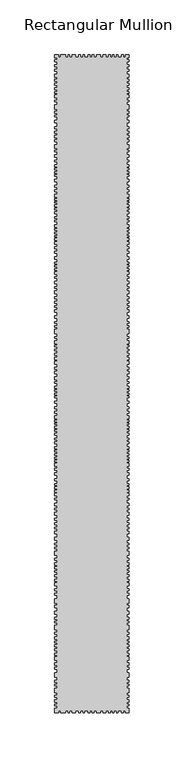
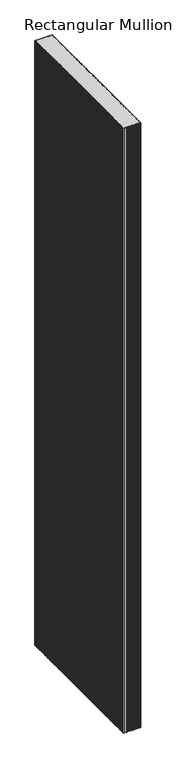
"""IFC4 building model written with IfcOpenShell, lengths in millimetres: member geometry, Rectangular Mullion : DucoSun Cubic Design louvre 600."""

from ifc_helpers import new_model, si_unit, frame, origin, place, context, project, spatial, polyline, outline, extrude, source, transform, mapped, element, save


def rectangular_mullion_db812b2c(model_context):
    return source(origin(), model_context, "Body", "SweptSolid", [
        extrude(outline(polyline([(-68.0, 597.3782451), (-68.0, 600.0), (-64.4544414, 600.0), (-64.4544414, 598.0), (-62.627942, 598.0), (-62.627942, 600.0), (-57.9842994, 600.0), (-57.9842994, 598.0), (-55.8172663, 598.0), (-55.8172663, 600.0), (-54.3003431, 600.0), (-54.3003431, 598.0), (-51.9475642, 598.0), (-51.9475642, 600.0), (-48.8827601, 600.0), (-48.8827601, 598.0), (-46.0965746, 598.0), (-46.0965746, 600.0), (-44.3939057, 600.0), (-44.3939057, 598.0), (-42.0101692, 598.0), (-42.0101692, 600.0), (-40.5242036, 600.0), (-40.5242036, 598.0), (-37.4884678, 598.0), (-37.4884678, 600.0), (-35.7094289, 600.0), (-35.7094289, 598.0), (-34.0, 598.0), (-34.0, 600.0), (-32.1513512, 600.0), (-32.1513512, 598.0), (-29.7871022, 598.0), (-29.7871022, 600.0), (-26.0183489, 600.0), (-26.0183489, 598.0), (-23.9584092, 598.0), (-23.9584092, 600.0), (-21.2664425, 600.0), (-21.2664425, 598.0), (-18.9958271, 598.0), (-18.9958271, 600.0), (-17.1231547, 600.0), (-17.1231547, 598.0), (-15.0632149, 598.0), (-15.0632149, 600.0), (-13.7289358, 600.0), (-13.7289358, 598.0), (-11.6924045, 598.0), (-11.6924045, 600.0), (-10.1006329, 600.0), (-10.1006329, 598.0), (-7.0341317, 598.0), (-7.0341317, 600.0), (-5.0678256, 600.0), (-5.0678256, 598.0), (-3.1249279, 598.0), (-3.1249279, 600.0), (0.0, 600.0), (0.0, 597.3782451), (-2.0, 597.3782451), (-2.0, 595.4241521), (0.0, 595.4241521), (0.0, 593.6532553), (-2.0, 593.6532553), (-2.0, 590.9460223), (0.0, 590.9460223), (0.0, 588.9105087), (-2.0, 588.9105087), (-2.0, 586.7121541), (0.0, 586.7121541), (0.0, 585.0023227), (-2.0, 585.0023227), (-2.0, 582.3561551), (0.0, 582.3561551), (0.0, 579.3843053), (-2.0, 579.3843053), (-2.0, 577.8917893), (0.0, 577.8917893), (0.0, 575.8425117), (-2.0, 575.8425117), (-2.0, 573.8680636), (0.0, 573.8680636), (0.0, 572.1582322), (-2.0, 572.1582322), (-2.0, 570.0820083), (0.0, 570.0820083), (0.0, 568.3111116), (-2.0, 568.3111116), (-2.0, 566.4995045), (0.0, 566.4995045), (0.0, 565.0713495), (-2.0, 565.0713495), (-2.0, 563.4577392), (0.0, 563.4577392), (0.0, 561.0328231), (-2.0, 561.0328231), (-2.0, 558.5725067), (0.0, 558.5725067), (0.0, 557.0325964), (-2.0, 557.0325964), (-2.0, 554.5014796), (0.0, 554.5014796), (0.0, 550.4127524), (-2.0, 550.4127524), (-2.0, 548.4126391), (0.0, 548.4126391), (0.0, 546.8373286), (-2.0, 546.8373286), (-2.0, 544.9965163), (0.0, 544.9965163), (0.0, 543.3504053), (-2.0, 543.3504053), (-2.0, 540.3767855), (0.0, 540.3767855), (0.0, 537.9545244), (-2.0, 537.9545244), (-2.0, 534.5552168), (0.0, 534.5552168), (0.0, 532.5197032), (-2.0, 532.5197032), (-2.0, 530.239928), (0.0, 530.239928), (0.0, 528.6929377), (-2.0, 528.6929377), (-2.0, 526.4335177), (0.0, 526.4335177), (0.0, 524.5608452), (-2.0, 524.5608452), (-2.0, 522.6271073), (0.0, 522.6271073), (0.0, 520.5508835), (-2.0, 520.5508835), (-2.0, 518.0064916), (0.0, 518.0064916), (0.0, 514.9328661), (-2.0, 514.9328661), (-2.0, 512.9177077), (0.0, 512.9177077), (0.0, 511.4114277), (-2.0, 511.4114277), (-2.0, 508.9688114), (0.0, 508.9688114), (0.0, 506.7118273), (-2.0, 506.7118273), (-2.0, 503.8852623), (0.0, 503.8852623), (0.0, 502.4316003), (-2.0, 502.4316003), (-2.0, 499.9011516), (0.0, 499.9011516), (0.0, 497.8552569), (-2.0, 497.8552569), (-2.0, 496.6169522), (0.0, 496.6169522), (0.0, 495.0825312), (-2.0, 495.0825312), (-2.0, 493.4673512), (0.0, 493.4673512), (0.0, 492.0675286), (-2.0, 492.0675286), (-2.0, 490.5869469), (0.0, 490.5869469), (0.0, 489.1602046), (-2.0, 489.1602046), (-2.0, 486.3310055), (0.0, 486.3310055), (0.0, 484.2608252), (-2.0, 484.2608252), (-2.0, 481.1919832), (0.0, 481.1919832), (0.0, 479.2537672), (-2.0, 479.2537672), (-2.0, 476.9360418), (0.0, 476.9360418), (0.0, 475.0004598), (-2.0, 475.0004598), (-2.0, 472.9007258), (0.0, 472.9007258), (0.0, 470.1010805), (-2.0, 470.1010805), (-2.0, 468.8089365), (0.0, 468.8089365), (0.0, 467.3014351), (-2.0, 467.3014351), (-2.0, 466.0362108), (0.0, 466.0362108), (0.0, 465.0401831), (-2.0, 465.0401831), (-2.0, 463.2096458), (0.0, 463.2096458), (0.0, 461.6483051), (-2.0, 461.6483051), (-2.0, 460.1408038), (0.0, 460.1408038), (0.0, 458.6063828), (-2.0, 458.6063828), (-2.0, 457.0719618), (0.0, 457.0719618), (0.0, 455.0799064), (-2.0, 455.0799064), (-2.0, 452.3762692), (0.0, 452.3762692), (0.0, 450.8903036), (-2.0, 450.8903036), (-2.0, 449.1257194), (0.0, 449.1257194), (0.0, 447.6087962), (-2.0, 447.6087962), (-2.0, 444.8535683), (0.0, 444.8535683), (0.0, 442.7484504), (-2.0, 442.7484504), (-2.0, 441.4172729), (0.0, 441.4172729), (0.0, 439.9622649), (-2.0, 439.9622649), (-2.0, 438.3524688), (0.0, 438.3524688), (0.0, 436.8355456), (-2.0, 436.8355456), (-2.0, 435.1947919), (0.0, 435.1947919), (0.0, 433.9255296), (-2.0, 433.9255296), (-2.0, 432.5014792), (0.0, 432.5014792), (0.0, 431.1083865), (-2.0, 431.1083865), (-2.0, 429.6843361), (0.0, 429.6843361), (0.0, 427.0529387), (-2.0, 427.0529387), (-2.0, 424.9787784), (0.0, 424.9787784), (0.0, 423.0284485), (-2.0, 423.0284485), (-2.0, 420.7995001), (0.0, 420.7995001), (0.0, 418.8182126), (-2.0, 418.8182126), (-2.0, 415.6914933), (0.0, 415.6914933), (0.0, 413.4935025), (-2.0, 413.4935025), (-2.0, 410.954978), (0.0, 410.954978), (0.0, 409.4070971), (-2.0, 409.4070971), (-2.0, 408.1378348), (0.0, 408.1378348), (0.0, 406.4970812), (-2.0, 406.4970812), (-2.0, 404.8253698), (0.0, 404.8253698), (0.0, 403.3394042), (-2.0, 403.3394042), (-2.0, 402.0391843), (0.0, 402.0391843), (0.0, 400.0578969), (-2.0, 400.0578969), (-2.0, 397.6741604), (0.0, 397.6741604), (0.0, 396.0953219), (-2.0, 396.0953219), (-2.0, 393.3091364), (0.0, 393.3091364), (0.0, 391.0182728), (-2.0, 391.0182728), (-2.0, 388.572621), (0.0, 388.572621), (0.0, 387.1485707), (-2.0, 387.1485707), (-2.0, 385.0124951), (0.0, 385.0124951), (0.0, 382.1643944), (-2.0, 382.1643944), (-2.0, 379.3782089), (0.0, 379.3782089), (0.0, 377.427879), (-2.0, 377.427879), (-2.0, 375.4156339), (0.0, 375.4156339), (0.0, 373.6510498), (-2.0, 373.6510498), (-2.0, 371.1744404), (0.0, 371.1744404), (0.0, 369.6884748), (-2.0, 369.6884748), (-2.0, 367.5523993), (0.0, 367.5523993), (0.0, 365.4163237), (-2.0, 365.4163237), (-2.0, 362.1967316), (0.0, 362.1967316), (0.0, 359.5343765), (-2.0, 359.5343765), (-2.0, 356.7791486), (0.0, 356.7791486), (0.0, 355.0764797), (-2.0, 355.0764797), (-2.0, 352.9404041), (0.0, 352.9404041), (0.0, 351.6092266), (-2.0, 351.6092266), (-2.0, 349.5660239), (0.0, 349.5660239), (0.0, 345.512038), (-2.0, 345.512038), (-2.0, 343.0030092), (0.0, 343.0030092), (0.0, 341.3312979), (-2.0, 341.3312979), (-2.0, 339.0404342), (0.0, 339.0404342), (0.0, 336.5638249), (-2.0, 336.5638249), (-2.0, 335.015944), (0.0, 335.015944), (0.0, 333.5609361), (-2.0, 333.5609361), (-2.0, 331.5796486), (0.0, 331.5796486), (0.0, 330.0627254), (-2.0, 330.0627254), (-2.0, 327.8337769), (0.0, 327.8337769), (0.0, 326.1620656), (-2.0, 326.1620656), (-2.0, 324.0259901), (0.0, 324.0259901), (0.0, 322.0756602), (-2.0, 322.0756602), (-2.0, 320.6516099), (0.0, 320.6516099), (0.0, 317.7415939), (-2.0, 317.7415939), (-2.0, 315.2030693), (0.0, 315.2030693), (0.0, 313.1908242), (-2.0, 313.1908242), (-2.0, 311.2404944), (0.0, 311.2404944), (0.0, 309.1353764), (-2.0, 309.1353764), (-2.0, 306.2563181), (0.0, 306.2563181), (0.0, 304.6155644), (-2.0, 304.6155644), (-2.0, 301.7889994), (0.0, 301.7889994), (0.0, 300.3353374), (-2.0, 300.3353374), (-2.0, 297.8048887), (0.0, 297.8048887), (0.0, 295.758994), (-2.0, 295.758994), (-2.0, 294.5206893), (0.0, 294.5206893), (0.0, 292.9862683), (-2.0, 292.9862683), (-2.0, 291.3710883), (0.0, 291.3710883), (0.0, 289.9712657), (-2.0, 289.9712657), (-2.0, 288.490684), (0.0, 288.490684), (0.0, 287.0639417), (-2.0, 287.0639417), (-2.0, 284.2347426), (0.0, 284.2347426), (0.0, 282.1645623), (-2.0, 282.1645623), (-2.0, 279.0957203), (0.0, 279.0957203), (0.0, 277.1575043), (-2.0, 277.1575043), (-2.0, 274.8397789), (0.0, 274.8397789), (0.0, 272.9041969), (-2.0, 272.9041969), (-2.0, 270.8044629), (0.0, 270.8044629), (0.0, 268.0048176), (-2.0, 268.0048176), (-2.0, 266.7126736), (0.0, 266.7126736), (0.0, 265.2051722), (-2.0, 265.2051722), (-2.0, 263.9399479), (0.0, 263.9399479), (0.0, 262.9439202), (-2.0, 262.9439202), (-2.0, 261.1133829), (0.0, 261.1133829), (0.0, 259.5520422), (-2.0, 259.5520422), (-2.0, 258.0445409), (0.0, 258.0445409), (0.0, 256.5101199), (-2.0, 256.5101199), (-2.0, 254.9756989), (0.0, 254.9756989), (0.0, 252.9836435), (-2.0, 252.9836435), (-2.0, 250.2800063), (0.0, 250.2800063), (0.0, 248.7940407), (-2.0, 248.7940407), (-2.0, 247.0294565), (0.0, 247.0294565), (0.0, 245.5125333), (-2.0, 245.5125333), (-2.0, 242.7573054), (0.0, 242.7573054), (0.0, 240.6521875), (-2.0, 240.6521875), (-2.0, 239.32101), (0.0, 239.32101), (0.0, 237.866002), (-2.0, 237.866002), (-2.0, 236.2562059), (0.0, 236.2562059), (0.0, 234.7392827), (-2.0, 234.7392827), (-2.0, 233.098529), (0.0, 233.098529), (0.0, 231.8292667), (-2.0, 231.8292667), (-2.0, 230.4052163), (0.0, 230.4052163), (0.0, 229.0121236), (-2.0, 229.0121236), (-2.0, 227.5880732), (0.0, 227.5880732), (0.0, 224.9566758), (-2.0, 224.9566758), (-2.0, 222.8825155), (0.0, 222.8825155), (0.0, 220.9321856), (-2.0, 220.9321856), (-2.0, 218.7032372), (0.0, 218.7032372), (0.0, 216.7219497), (-2.0, 216.7219497), (-2.0, 213.5952304), (0.0, 213.5952304), (0.0, 211.3972396), (-2.0, 211.3972396), (-2.0, 208.8587151), (0.0, 208.8587151), (0.0, 207.3108342), (-2.0, 207.3108342), (-2.0, 206.0415719), (0.0, 206.0415719), (0.0, 204.4008183), (-2.0, 204.4008183), (-2.0, 202.7291069), (0.0, 202.7291069), (0.0, 201.2431413), (-2.0, 201.2431413), (-2.0, 199.9429214), (0.0, 199.9429214), (0.0, 197.961634), (-2.0, 197.961634), (-2.0, 195.5778975), (0.0, 195.5778975), (0.0, 193.999059), (-2.0, 193.999059), (-2.0, 191.2128735), (0.0, 191.2128735), (0.0, 188.9220099), (-2.0, 188.9220099), (-2.0, 186.4763581), (0.0, 186.4763581), (0.0, 185.0523078), (-2.0, 185.0523078), (-2.0, 182.9162322), (0.0, 182.9162322), (0.0, 180.0681315), (-2.0, 180.0681315), (-2.0, 177.281946), (0.0, 177.281946), (0.0, 175.3316161), (-2.0, 175.3316161), (-2.0, 173.319371), (0.0, 173.319371), (0.0, 171.5547869), (-2.0, 171.5547869), (-2.0, 169.0781775), (0.0, 169.0781775), (0.0, 167.5922119), (-2.0, 167.5922119), (-2.0, 165.4561364), (0.0, 165.4561364), (0.0, 163.3200608), (-2.0, 163.3200608), (-2.0, 160.1004687), (0.0, 160.1004687), (0.0, 157.4381136), (-2.0, 157.4381136), (-2.0, 154.6828857), (0.0, 154.6828857), (0.0, 152.9802168), (-2.0, 152.9802168), (-2.0, 150.8441412), (0.0, 150.8441412), (0.0, 149.5129637), (-2.0, 149.5129637), (-2.0, 147.469761), (0.0, 147.469761), (0.0, 143.4157751), (-2.0, 143.4157751), (-2.0, 140.9067463), (0.0, 140.9067463), (0.0, 139.235035), (-2.0, 139.235035), (-2.0, 136.9441713), (0.0, 136.9441713), (0.0, 134.467562), (-2.0, 134.467562), (-2.0, 132.9196811), (0.0, 132.9196811), (0.0, 131.4646731), (-2.0, 131.4646731), (-2.0, 129.4833857), (0.0, 129.4833857), (0.0, 127.9664625), (-2.0, 127.9664625), (-2.0, 125.737514), (0.0, 125.737514), (0.0, 124.0658027), (-2.0, 124.0658027), (-2.0, 121.9297272), (0.0, 121.9297272), (0.0, 119.9793973), (-2.0, 119.9793973), (-2.0, 118.555347), (0.0, 118.555347), (0.0, 115.645331), (-2.0, 115.645331), (-2.0, 113.1068064), (0.0, 113.1068064), (0.0, 111.0945613), (-2.0, 111.0945613), (-2.0, 109.1442315), (0.0, 109.1442315), (0.0, 107.0391135), (-2.0, 107.0391135), (-2.0, 104.0), (0.0, 104.0), (0.0, 100.0), (-2.0, 100.0), (-2.0, 97.8639244), (0.0, 97.8639244), (0.0, 95.7278489), (-2.0, 95.7278489), (-2.0, 92.5082567), (0.0, 92.5082567), (0.0, 89.8459017), (-2.0, 89.8459017), (-2.0, 87.0906738), (0.0, 87.0906738), (0.0, 85.3880049), (-2.0, 85.3880049), (-2.0, 83.2519293), (0.0, 83.2519293), (0.0, 81.9207518), (-2.0, 81.9207518), (-2.0, 79.8775491), (0.0, 79.8775491), (0.0, 75.8235632), (-2.0, 75.8235632), (-2.0, 73.3145343), (0.0, 73.3145343), (0.0, 71.642823), (-2.0, 71.642823), (-2.0, 69.3519594), (0.0, 69.3519594), (0.0, 66.8753501), (-2.0, 66.8753501), (-2.0, 65.3274692), (0.0, 65.3274692), (0.0, 63.8724612), (-2.0, 63.8724612), (-2.0, 61.8911738), (0.0, 61.8911738), (0.0, 60.3742505), (-2.0, 60.3742505), (-2.0, 58.1453021), (0.0, 58.1453021), (0.0, 56.4735908), (-2.0, 56.4735908), (-2.0, 54.3375153), (0.0, 54.3375153), (0.0, 52.3871854), (-2.0, 52.3871854), (-2.0, 50.963135), (0.0, 50.963135), (0.0, 48.0531191), (-2.0, 48.0531191), (-2.0, 45.5145945), (0.0, 45.5145945), (0.0, 43.5023494), (-2.0, 43.5023494), (-2.0, 41.5520195), (0.0, 41.5520195), (0.0, 39.4469016), (-2.0, 39.4469016), (-2.0, 36.4077881), (0.0, 36.4077881), (0.0, 32.4077881), (-2.0, 32.4077881), (-2.0, 29.6525602), (0.0, 29.6525602), (0.0, 27.9498913), (-2.0, 27.9498913), (-2.0, 25.8138157), (0.0, 25.8138157), (0.0, 24.4826382), (-2.0, 24.4826382), (-2.0, 22.4394355), (0.0, 22.4394355), (0.0, 18.3854496), (-2.0, 18.3854496), (-2.0, 15.8764207), (0.0, 15.8764207), (0.0, 14.2047094), (-2.0, 14.2047094), (-2.0, 11.9138458), (0.0, 11.9138458), (0.0, 9.4372364), (-2.0, 9.4372364), (-2.0, 7.8893556), (0.0, 7.8893556), (0.0, 6.4343476), (-2.0, 6.4343476), (-2.0, 4.0), (0.0, 4.0), (0.0, 0.0), (-3.1249279, 0.0), (-3.1249279, 2.0), (-5.0678256, 2.0), (-5.0678256, 0.0), (-7.0341317, 0.0), (-7.0341317, 2.0), (-10.1006329, 2.0), (-10.1006329, 0.0), (-11.6924045, 0.0), (-11.6924045, 2.0), (-13.7289358, 2.0), (-13.7289358, 0.0), (-15.0632149, 0.0), (-15.0632149, 2.0), (-17.1231547, 2.0), (-17.1231547, 0.0), (-18.9958271, 0.0), (-18.9958271, 2.0), (-21.2664425, 2.0), (-21.2664425, 0.0), (-23.9584092, 0.0), (-23.9584092, 2.0), (-26.0183489, 2.0), (-26.0183489, 0.0), (-29.7871022, 0.0), (-29.7871022, 2.0), (-32.1513512, 2.0), (-32.1513512, 0.0), (-34.0, 0.0), (-34.0, 2.0), (-35.7094289, 2.0), (-35.7094289, 0.0), (-37.4884678, 0.0), (-37.4884678, 2.0), (-40.5242036, 2.0), (-40.5242036, 0.0), (-42.0101692, 0.0), (-42.0101692, 2.0), (-44.3939057, 2.0), (-44.3939057, 0.0), (-46.0965746, 0.0), (-46.0965746, 2.0), (-48.8827601, 2.0), (-48.8827601, 0.0), (-51.9475642, 0.0), (-51.9475642, 2.0), (-54.3003431, 2.0), (-54.3003431, 0.0), (-55.8172663, 0.0), (-55.8172663, 2.0), (-57.9842994, 2.0), (-57.9842994, 0.0), (-62.627942, 0.0), (-62.627942, 2.0), (-64.4544414, 2.0), (-64.4544414, 0.0), (-68.0, 0.0), (-68.0, 4.0), (-66.0, 4.0), (-66.0, 6.4343476), (-68.0, 6.4343476), (-68.0, 7.8893556), (-66.0, 7.8893556), (-66.0, 9.4372364), (-68.0, 9.4372364), (-68.0, 11.9138458), (-66.0, 11.9138458), (-66.0, 14.2047094), (-68.0, 14.2047094), (-68.0, 15.8764207), (-66.0, 15.8764207), (-66.0, 18.3854496), (-68.0, 18.3854496), (-68.0, 22.4394355), (-66.0, 22.4394355), (-66.0, 24.4826382), (-68.0, 24.4826382), (-68.0, 25.8138157), (-66.0, 25.8138157), (-66.0, 27.9498913), (-68.0, 27.9498913), (-68.0, 29.6525602), (-66.0, 29.6525602), (-66.0, 32.4077881), (-68.0, 32.4077881), (-68.0, 36.4077881), (-66.0, 36.4077881), (-66.0, 39.4469016), (-68.0, 39.4469016), (-68.0, 41.5520195), (-66.0, 41.5520195), (-66.0, 43.5023494), (-68.0, 43.5023494), (-68.0, 45.5145945), (-66.0, 45.5145945), (-66.0, 48.0531191), (-68.0, 48.0531191), (-68.0, 50.963135), (-66.0, 50.963135), (-66.0, 52.3871854), (-68.0, 52.3871854), (-68.0, 54.3375153), (-66.0, 54.3375153), (-66.0, 56.4735908), (-68.0, 56.4735908), (-68.0, 58.1453021), (-66.0, 58.1453021), (-66.0, 60.3742505), (-68.0, 60.3742505), (-68.0, 61.8911738), (-66.0, 61.8911738), (-66.0, 63.8724612), (-68.0, 63.8724612), (-68.0, 65.3274692), (-66.0, 65.3274692), (-66.0, 66.8753501), (-68.0, 66.8753501), (-68.0, 69.3519594), (-66.0, 69.3519594), (-66.0, 71.642823), (-68.0, 71.642823), (-68.0, 73.3145343), (-66.0, 73.3145343), (-66.0, 75.8235632), (-68.0, 75.8235632), (-68.0, 79.8775491), (-66.0, 79.8775491), (-66.0, 81.9207518), (-68.0, 81.9207518), (-68.0, 83.2519293), (-66.0, 83.2519293), (-66.0, 85.3880049), (-68.0, 85.3880049), (-68.0, 87.0906738), (-66.0, 87.0906738), (-66.0, 89.8459017), (-68.0, 89.8459017), (-68.0, 92.5082567), (-66.0, 92.5082567), (-66.0, 95.7278489), (-68.0, 95.7278489), (-68.0, 97.8639244), (-66.0, 97.8639244), (-66.0, 100.0), (-68.0, 100.0), (-68.0, 104.0), (-66.0, 104.0), (-66.0, 107.0391135), (-68.0, 107.0391135), (-68.0, 109.1442315), (-66.0, 109.1442315), (-66.0, 111.0945613), (-68.0, 111.0945613), (-68.0, 113.1068064), (-66.0, 113.1068064), (-66.0, 115.645331), (-68.0, 115.645331), (-68.0, 118.555347), (-66.0, 118.555347), (-66.0, 119.9793973), (-68.0, 119.9793973), (-68.0, 121.9297272), (-66.0, 121.9297272), (-66.0, 124.0658027), (-68.0, 124.0658027), (-68.0, 125.737514), (-66.0, 125.737514), (-66.0, 127.9664625), (-68.0, 127.9664625), (-68.0, 129.4833857), (-66.0, 129.4833857), (-66.0, 131.4646731), (-68.0, 131.4646731), (-68.0, 132.9196811), (-66.0, 132.9196811), (-66.0, 134.467562), (-68.0, 134.467562), (-68.0, 136.9441713), (-66.0, 136.9441713), (-66.0, 139.235035), (-68.0, 139.235035), (-68.0, 140.9067463), (-66.0, 140.9067463), (-66.0, 143.4157751), (-68.0, 143.4157751), (-68.0, 147.469761), (-66.0, 147.469761), (-66.0, 149.5129637), (-68.0, 149.5129637), (-68.0, 150.8441412), (-66.0, 150.8441412), (-66.0, 152.9802168), (-68.0, 152.9802168), (-68.0, 154.6828857), (-66.0, 154.6828857), (-66.0, 157.4381136), (-68.0, 157.4381136), (-68.0, 160.1004687), (-66.0, 160.1004687), (-66.0, 163.3200608), (-68.0, 163.3200608), (-68.0, 165.4561364), (-66.0, 165.4561364), (-66.0, 167.5922119), (-68.0, 167.5922119), (-68.0, 169.0781775), (-66.0, 169.0781775), (-66.0, 171.5547869), (-68.0, 171.5547869), (-68.0, 173.319371), (-66.0, 173.319371), (-66.0, 175.3316161), (-68.0, 175.3316161), (-68.0, 177.281946), (-66.0, 177.281946), (-66.0, 180.0681315), (-68.0, 180.0681315), (-68.0, 182.9162322), (-66.0, 182.9162322), (-66.0, 185.0523078), (-68.0, 185.0523078), (-68.0, 186.4763581), (-66.0, 186.4763581), (-66.0, 188.9220099), (-68.0, 188.9220099), (-68.0, 191.2128735), (-66.0, 191.2128735), (-66.0, 193.999059), (-68.0, 193.999059), (-68.0, 195.5778975), (-66.0, 195.5778975), (-66.0, 197.961634), (-68.0, 197.961634), (-68.0, 199.9429214), (-66.0, 199.9429214), (-66.0, 201.2431413), (-68.0, 201.2431413), (-68.0, 202.7291069), (-66.0, 202.7291069), (-66.0, 204.4008183), (-68.0, 204.4008183), (-68.0, 206.0415719), (-66.0, 206.0415719), (-66.0, 207.3108342), (-68.0, 207.3108342), (-68.0, 208.8587151), (-66.0, 208.8587151), (-66.0, 211.3972396), (-68.0, 211.3972396), (-68.0, 213.5952304), (-66.0, 213.5952304), (-66.0, 216.7219497), (-68.0, 216.7219497), (-68.0, 218.7032372), (-66.0, 218.7032372), (-66.0, 220.9321856), (-68.0, 220.9321856), (-68.0, 222.8825155), (-66.0, 222.8825155), (-66.0, 224.9566758), (-68.0, 224.9566758), (-68.0, 227.5880732), (-66.0, 227.5880732), (-66.0, 229.0121236), (-68.0, 229.0121236), (-68.0, 230.4052163), (-66.0, 230.4052163), (-66.0, 231.8292667), (-68.0, 231.8292667), (-68.0, 233.098529), (-66.0, 233.098529), (-66.0, 234.7392827), (-68.0, 234.7392827), (-68.0, 236.2562059), (-66.0, 236.2562059), (-66.0, 237.866002), (-68.0, 237.866002), (-68.0, 239.32101), (-66.0, 239.32101), (-66.0, 240.6521875), (-68.0, 240.6521875), (-68.0, 242.7573054), (-66.0, 242.7573054), (-66.0, 245.5125333), (-68.0, 245.5125333), (-68.0, 247.0294565), (-66.0, 247.0294565), (-66.0, 248.7940407), (-68.0, 248.7940407), (-68.0, 250.2800063), (-66.0, 250.2800063), (-66.0, 252.9836435), (-68.0, 252.9836435), (-68.0, 254.9756989), (-66.0, 254.9756989), (-66.0, 256.5101199), (-68.0, 256.5101199), (-68.0, 258.0445409), (-66.0, 258.0445409), (-66.0, 259.5520422), (-68.0, 259.5520422), (-68.0, 261.1133829), (-66.0, 261.1133829), (-66.0, 262.9439202), (-68.0, 262.9439202), (-68.0, 263.9399479), (-66.0, 263.9399479), (-66.0, 265.2051722), (-68.0, 265.2051722), (-68.0, 266.7126736), (-66.0, 266.7126736), (-66.0, 268.0048176), (-68.0, 268.0048176), (-68.0, 270.8044629), (-66.0, 270.8044629), (-66.0, 272.9041969), (-68.0, 272.9041969), (-68.0, 274.8397789), (-66.0, 274.8397789), (-66.0, 277.1575043), (-68.0, 277.1575043), (-68.0, 279.0957203), (-66.0, 279.0957203), (-66.0, 282.1645623), (-68.0, 282.1645623), (-68.0, 284.2347426), (-66.0, 284.2347426), (-66.0, 287.0639417), (-68.0, 287.0639417), (-68.0, 288.490684), (-66.0, 288.490684), (-66.0, 289.9712657), (-68.0, 289.9712657), (-68.0, 291.3710883), (-66.0, 291.3710883), (-66.0, 292.9862683), (-68.0, 292.9862683), (-68.0, 294.5206893), (-66.0, 294.5206893), (-66.0, 295.758994), (-68.0, 295.758994), (-68.0, 297.8048887), (-66.0, 297.8048887), (-66.0, 300.3353374), (-68.0, 300.3353374), (-68.0, 301.7889994), (-66.0, 301.7889994), (-66.0, 303.7186411), (-68.0, 303.7186411), (-68.0, 306.2563181), (-66.0, 306.2563181), (-66.0, 309.1353764), (-68.0, 309.1353764), (-68.0, 311.2404944), (-66.0, 311.2404944), (-66.0, 313.1908242), (-68.0, 313.1908242), (-68.0, 315.2030693), (-66.0, 315.2030693), (-66.0, 317.7415939), (-68.0, 317.7415939), (-68.0, 320.6516099), (-66.0, 320.6516099), (-66.0, 322.0756602), (-68.0, 322.0756602), (-68.0, 324.0259901), (-66.0, 324.0259901), (-66.0, 326.1620656), (-68.0, 326.1620656), (-68.0, 327.8337769), (-66.0, 327.8337769), (-66.0, 330.0627254), (-68.0, 330.0627254), (-68.0, 331.5796486), (-66.0, 331.5796486), (-66.0, 333.5609361), (-68.0, 333.5609361), (-68.0, 335.015944), (-66.0, 335.015944), (-66.0, 336.5638249), (-68.0, 336.5638249), (-68.0, 339.0404342), (-66.0, 339.0404342), (-66.0, 341.3312979), (-68.0, 341.3312979), (-68.0, 343.0030092), (-66.0, 343.0030092), (-66.0, 345.512038), (-68.0, 345.512038), (-68.0, 349.5660239), (-66.0, 349.5660239), (-66.0, 351.6092266), (-68.0, 351.6092266), (-68.0, 352.9404041), (-66.0, 352.9404041), (-66.0, 355.0764797), (-68.0, 355.0764797), (-68.0, 356.7791486), (-66.0, 356.7791486), (-66.0, 359.5343765), (-68.0, 359.5343765), (-68.0, 362.1967316), (-66.0, 362.1967316), (-66.0, 365.4163237), (-68.0, 365.4163237), (-68.0, 367.5523993), (-66.0, 367.5523993), (-66.0, 369.6884748), (-68.0, 369.6884748), (-68.0, 371.1744404), (-66.0, 371.1744404), (-66.0, 373.6510498), (-68.0, 373.6510498), (-68.0, 375.4156339), (-66.0, 375.4156339), (-66.0, 377.427879), (-68.0, 377.427879), (-68.0, 379.3782089), (-66.0, 379.3782089), (-66.0, 382.1643944), (-68.0, 382.1643944), (-68.0, 385.0124951), (-66.0, 385.0124951), (-66.0, 387.1485707), (-68.0, 387.1485707), (-68.0, 388.572621), (-66.0, 388.572621), (-66.0, 391.0182728), (-68.0, 391.0182728), (-68.0, 393.3091364), (-66.0, 393.3091364), (-66.0, 396.0953219), (-68.0, 396.0953219), (-68.0, 397.6741604), (-66.0, 397.6741604), (-66.0, 400.0578969), (-68.0, 400.0578969), (-68.0, 402.0391843), (-66.0, 402.0391843), (-66.0, 403.3394042), (-68.0, 403.3394042), (-68.0, 404.8253698), (-66.0, 404.8253698), (-66.0, 406.4970812), (-68.0, 406.4970812), (-68.0, 408.1378348), (-66.0, 408.1378348), (-66.0, 409.4070971), (-68.0, 409.4070971), (-68.0, 410.954978), (-66.0, 410.954978), (-66.0, 413.4935025), (-68.0, 413.4935025), (-68.0, 415.6914933), (-66.0, 415.6914933), (-66.0, 418.8182126), (-68.0, 418.8182126), (-68.0, 420.7995001), (-66.0, 420.7995001), (-66.0, 423.0284485), (-68.0, 423.0284485), (-68.0, 424.9787784), (-66.0, 424.9787784), (-66.0, 427.0529387), (-68.0, 427.0529387), (-68.0, 429.6843361), (-66.0, 429.6843361), (-66.0, 431.1083865), (-68.0, 431.1083865), (-68.0, 432.5014792), (-66.0, 432.5014792), (-66.0, 433.9255296), (-68.0, 433.9255296), (-68.0, 435.1947919), (-66.0, 435.1947919), (-66.0, 436.8355456), (-68.0, 436.8355456), (-68.0, 438.3524688), (-66.0, 438.3524688), (-66.0, 439.9622649), (-68.0, 439.9622649), (-68.0, 441.4172729), (-66.0, 441.4172729), (-66.0, 442.7484504), (-68.0, 442.7484504), (-68.0, 444.8535683), (-66.0, 444.8535683), (-66.0, 447.6087962), (-68.0, 447.6087962), (-68.0, 449.1257194), (-66.0, 449.1257194), (-66.0, 450.8903036), (-68.0, 450.8903036), (-68.0, 452.3762692), (-66.0, 452.3762692), (-66.0, 455.0799064), (-68.0, 455.0799064), (-68.0, 457.0719618), (-66.0, 457.0719618), (-66.0, 458.6063828), (-68.0, 458.6063828), (-68.0, 460.1408038), (-66.0, 460.1408038), (-66.0, 461.6483051), (-68.0, 461.6483051), (-68.0, 463.2096458), (-66.0, 463.2096458), (-66.0, 465.0401831), (-68.0, 465.0401831), (-68.0, 466.0362108), (-66.0, 466.0362108), (-66.0, 467.3014351), (-68.0, 467.3014351), (-68.0, 468.8089365), (-66.0, 468.8089365), (-66.0, 470.1010805), (-68.0, 470.1010805), (-68.0, 472.9007258), (-66.0, 472.9007258), (-66.0, 475.0004598), (-68.0, 475.0004598), (-68.0, 476.9360418), (-66.0, 476.9360418), (-66.0, 479.2537672), (-68.0, 479.2537672), (-68.0, 481.1919832), (-66.0, 481.1919832), (-66.0, 484.2608252), (-68.0, 484.2608252), (-68.0, 486.3310055), (-66.0, 486.3310055), (-66.0, 489.1602046), (-68.0, 489.1602046), (-68.0, 490.5869469), (-66.0, 490.5869469), (-66.0, 492.0675286), (-68.0, 492.0675286), (-68.0, 493.4673512), (-66.0, 493.4673512), (-66.0, 495.0825312), (-68.0, 495.0825312), (-68.0, 496.6169522), (-66.0, 496.6169522), (-66.0, 497.8552569), (-68.0, 497.8552569), (-68.0, 499.9011516), (-66.0, 499.9011516), (-66.0, 502.4316003), (-68.0, 502.4316003), (-68.0, 503.8852623), (-66.0, 503.8852623), (-66.0, 506.7118273), (-68.0, 506.7118273), (-68.0, 508.9688114), (-66.0, 508.9688114), (-66.0, 511.4114277), (-68.0, 511.4114277), (-68.0, 512.9177077), (-66.0, 512.9177077), (-66.0, 514.9328661), (-68.0, 514.9328661), (-68.0, 518.0064916), (-66.0, 518.0064916), (-66.0, 520.5508835), (-68.0, 520.5508835), (-68.0, 522.6271073), (-66.0, 522.6271073), (-66.0, 524.5608452), (-68.0, 524.5608452), (-68.0, 526.4335177), (-66.0, 526.4335177), (-66.0, 528.6929377), (-68.0, 528.6929377), (-68.0, 530.239928), (-66.0, 530.239928), (-66.0, 532.5197032), (-68.0, 532.5197032), (-68.0, 534.5552168), (-66.0, 534.5552168), (-66.0, 537.9545244), (-68.0, 537.9545244), (-68.0, 540.3767855), (-66.0, 540.3767855), (-66.0, 543.3504053), (-68.0, 543.3504053), (-68.0, 544.9965163), (-66.0, 544.9965163), (-66.0, 546.8373286), (-68.0, 546.8373286), (-68.0, 548.4126391), (-66.0, 548.4126391), (-66.0, 550.4127524), (-68.0, 550.4127524), (-68.0, 554.5014796), (-66.0, 554.5014796), (-66.0, 557.0325964), (-68.0, 557.0325964), (-68.0, 558.5725067), (-66.0, 558.5725067), (-66.0, 561.0328231), (-68.0, 561.0328231), (-68.0, 563.4577392), (-66.0, 563.4577392), (-66.0, 565.0713495), (-68.0, 565.0713495), (-68.0, 566.4995045), (-66.0, 566.4995045), (-66.0, 568.3111116), (-68.0, 568.3111116), (-68.0, 570.0820083), (-66.0, 570.0820083), (-66.0, 572.1582322), (-68.0, 572.1582322), (-68.0, 573.8680636), (-66.0, 573.8680636), (-66.0, 575.8425117), (-68.0, 575.8425117), (-68.0, 577.8917893), (-66.0, 577.8917893), (-66.0, 579.3843053), (-68.0, 579.3843053), (-68.0, 582.3561551), (-66.0, 582.3561551), (-66.0, 585.0023227), (-68.0, 585.0023227), (-68.0, 586.7121541), (-66.0, 586.7121541), (-66.0, 588.9105087), (-68.0, 588.9105087), (-68.0, 590.9460223), (-66.0, 590.9460223), (-66.0, 593.6532553), (-68.0, 593.6532553), (-68.0, 595.4241521), (-66.0, 595.4241521), (-66.0, 597.3782451), (-68.0, 597.3782451)])), frame((0.0, 0.0, -2500.0), z_axis=(0.0, 0.0, 1.0), x_axis=(1.0, 0.0, 0.0)), (0.0, 0.0, 1.0), 2500.0),
    ])


if __name__ == "__main__":
    model = new_model("IFC4")
    model_context = context("Model", 3, world=origin())
    ifc_project = project(units=[si_unit("LENGTHUNIT", "METRE", prefix="MILLI")], contexts=[model_context])
    site = spatial("IfcSite", under=ifc_project)
    building = spatial("IfcBuilding", under=site)
    placement = place(None, origin())
    rectangular_mullion_shape = rectangular_mullion_db812b2c(model_context)
    element("IfcMember", 1, ObjectType="Rectangular Mullion : DucoSun Cubic Design louvre 600", at=placement, inside=building, context=model_context, shape_type="MappedRepresentation", body=[
        mapped(rectangular_mullion_shape, transform((0.0, 0.0, 0.0), x_axis=(1.0, 0.0, 0.0), y_axis=(0.0, 1.0, 0.0), z_axis=(0.0, 0.0, 1.0))),
    ])
    save(model, "model.ifc")
